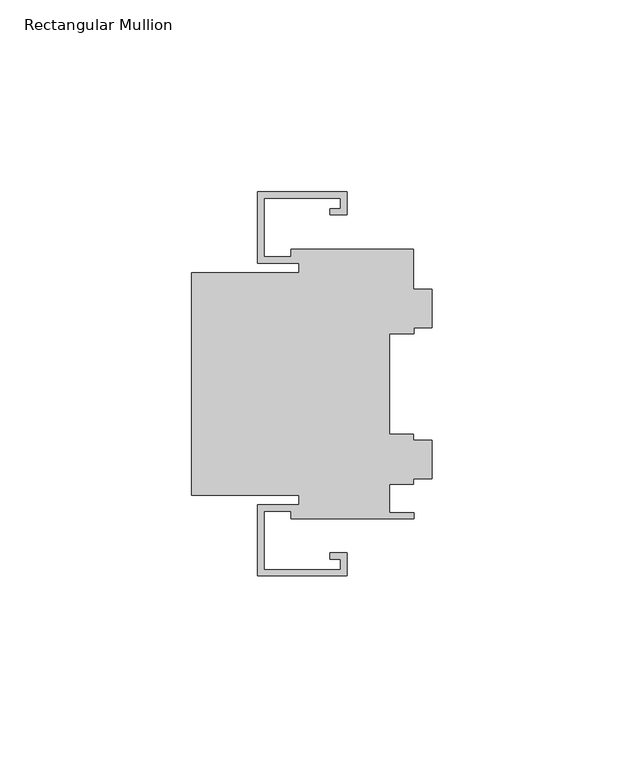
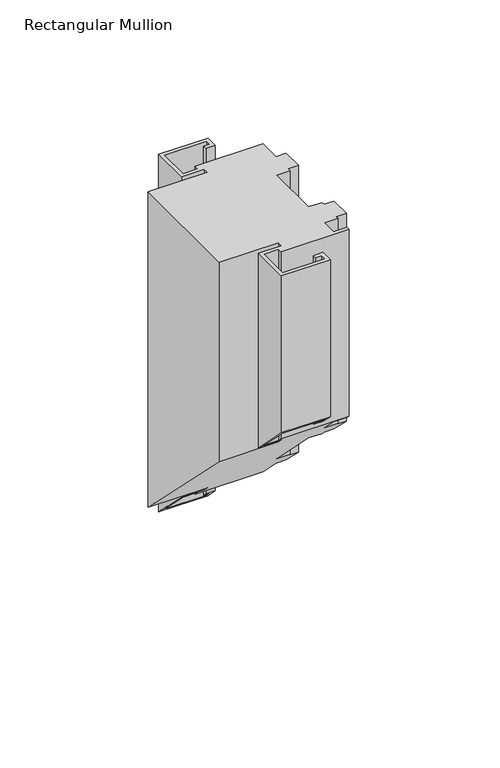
"""IFC4 building model written with IfcOpenShell, lengths in millimetres: member geometry, Rectangular Mullion : Frame-Teknion-OptosLP-Ceiling_Top_Spacer."""

from ifc_helpers import new_model, si_unit, origin, place, context, project, spatial, faceted_brep, source, transform, mapped, element, save


def rectangular_mullion_94d12410(model_context):
    return source(origin(), model_context, "Body", "Brep", [
        faceted_brep([(-22.1967604, 49.9999002, 0.0), (-45.4377611, 49.9999002, 0.0), (-45.4377611, 31.457901, 0.0), (-34.6173606, 31.457901, 0.0), (-34.6173606, 28.9941, 0.0), (-62.608161, 28.9941, 0.0), (-62.608161, -28.9941, 0.0), (-34.6173606, -28.9941, 0.0), (-34.6173606, -31.457901, 0.0), (-45.4377611, -31.457901, 0.0), (-45.4377611, -49.9999002, 0.0), (-22.1967604, -49.9999002, 0.0), (-22.1967604, -44.030901, 0.0), (-26.6417618, -44.030901, 0.0), (-26.6417618, -45.6819013, 0.0), (-23.8477606, -45.6819013, 0.0), (-23.8477606, -48.3488999, 0.0), (-43.7867608, -48.3488999, 0.0), (-43.7867608, -33.1089012, 0.0), (-36.801761, -33.1089012, 0.0), (-36.801761, -35.1409018, 0.0), (-4.7762384, -35.1409018, 0.0), (-4.7762384, -33.4899016, 0.0), (-11.1450644, -33.4899016, 0.0), (-11.1450644, -26.1620004, 0.0), (-4.7977622, -26.1620004, 0.0), (-4.7977622, -24.6323263, 0.0), (0.0, -24.6323263, 0.0), (0.0, -14.6111051, 0.0), (-4.7977622, -14.6111051, 0.0), (-4.7977622, -13.0810002, 0.0), (-11.1477617, -13.0810002, 0.0), (-11.1477617, 13.0810002, 0.0), (-4.7762384, 13.0810002, 0.0), (-4.7762384, 14.6103429, 0.0), (0.0, 14.6103429, 0.0), (0.0, 24.6315641, 0.0), (-4.7977622, 24.6315641, 0.0), (-4.7977622, 35.1409018, 0.0), (-36.801761, 35.1409018, 0.0), (-36.801761, 33.1089012, 0.0), (-43.7867608, 33.1089012, 0.0), (-43.7867608, 48.3488999, 0.0), (-23.8477606, 48.3488999, 0.0), (-23.8477606, 45.6819013, 0.0), (-26.6417618, 45.6819013, 0.0), (-26.6417618, 44.030901, 0.0), (-22.1967604, 44.030901, 0.0), (-22.1967604, 49.9999002, -178.2407062), (-45.4377611, 49.9999002, -178.2407062), (-45.4377611, 31.457901, -159.698707), (-34.6173606, 31.457901, -159.698707), (-34.6173606, 28.9941, -157.234906), (-62.608161, 28.9941, -157.234906), (-62.608161, -28.9941, -99.246706), (-34.6173606, -28.9941, -99.246706), (-34.6173606, -31.457901, -96.782905), (-45.4377611, -31.457901, -96.782905), (-45.4377611, -49.9999002, -78.2409059), (-22.1967604, -49.9999002, -78.2409059), (-22.1967604, -44.030901, -84.209905), (-26.6417618, -44.030901, -84.209905), (-26.6417618, -45.6819013, -82.5589048), (-23.8477606, -45.6819013, -82.5589048), (-23.8477606, -48.3488999, -79.8919061), (-43.7867608, -48.3488999, -79.8919061), (-43.7867608, -33.1089012, -95.1319048), (-36.801761, -33.1089012, -95.1319048), (-36.801761, -35.1409018, -93.0999042), (-4.7762384, -35.1409018, -93.0999042), (-4.7762384, -33.4899016, -94.7509045), (-11.1450644, -33.4899016, -94.7509045), (-11.1450644, -26.1620004, -102.0788057), (-4.7977622, -26.1620004, -102.0788057), (-4.7977622, -24.6323263, -103.6084798), (0.0, -24.6323263, -103.6084798), (0.0, -14.6111051, -113.6297009), (-4.7977622, -14.6111051, -113.6297009), (-4.7977622, -13.0810002, -115.1598059), (-11.1477617, -13.0810002, -115.1598059), (-11.1477617, 13.0810002, -141.3218062), (-4.7762384, 13.0810002, -141.3218062), (-4.7762384, 14.6103429, -142.851149), (0.0, 14.6103429, -142.851149), (0.0, 24.6315641, -152.8723701), (-4.7977622, 24.6315641, -152.8723701), (-4.7977622, 35.1409018, -163.3817078), (-36.801761, 35.1409018, -163.3817078), (-36.801761, 33.1089012, -161.3497073), (-43.7867608, 33.1089012, -161.3497073), (-43.7867608, 48.3488999, -176.589706), (-23.8477606, 48.3488999, -176.589706), (-23.8477606, 45.6819013, -173.9227073), (-26.6417618, 45.6819013, -173.9227073), (-26.6417618, 44.030901, -172.2717071), (-22.1967604, 44.030901, -172.2717071)], [[[0, 1, 2, 3, 4, 5, 6, 7, 8, 9, 10, 11, 12, 13, 14, 15, 16, 17, 18, 19, 20, 21, 22, 23, 24, 25, 26, 27, 28, 29, 30, 31, 32, 33, 34, 35, 36, 37, 38, 39, 40, 41, 42, 43, 44, 45, 46, 47]], [[1, 0, 48, 49]], [[2, 1, 49, 50]], [[3, 2, 50, 51]], [[4, 3, 51, 52]], [[5, 4, 52, 53]], [[6, 5, 53, 54]], [[7, 6, 54, 55]], [[8, 7, 55, 56]], [[9, 8, 56, 57]], [[10, 9, 57, 58]], [[11, 10, 58, 59]], [[12, 11, 59, 60]], [[13, 12, 60, 61]], [[14, 13, 61, 62]], [[15, 14, 62, 63]], [[16, 15, 63, 64]], [[17, 16, 64, 65]], [[18, 17, 65, 66]], [[19, 18, 66, 67]], [[20, 19, 67, 68]], [[21, 20, 68, 69]], [[22, 21, 69, 70]], [[23, 22, 70, 71]], [[24, 23, 71, 72]], [[25, 24, 72, 73]], [[26, 25, 73, 74]], [[27, 26, 74, 75]], [[28, 27, 75, 76]], [[29, 28, 76, 77]], [[30, 29, 77, 78]], [[31, 30, 78, 79]], [[32, 31, 79, 80]], [[33, 32, 80, 81]], [[34, 33, 81, 82]], [[35, 34, 82, 83]], [[36, 35, 83, 84]], [[37, 36, 84, 85]], [[38, 37, 85, 86]], [[39, 38, 86, 87]], [[40, 39, 87, 88]], [[41, 40, 88, 89]], [[42, 41, 89, 90]], [[43, 42, 90, 91]], [[44, 43, 91, 92]], [[45, 44, 92, 93]], [[46, 45, 93, 94]], [[47, 46, 94, 95]], [[0, 47, 95, 48]], [[48, 95, 94, 93, 92, 91, 90, 89, 88, 87, 86, 85, 84, 83, 82, 81, 80, 79, 78, 77, 76, 75, 74, 73, 72, 71, 70, 69, 68, 67, 66, 65, 64, 63, 62, 61, 60, 59, 58, 57, 56, 55, 54, 53, 52, 51, 50, 49]]]),
    ])


if __name__ == "__main__":
    model = new_model("IFC4")
    model_context = context("Model", 3, world=origin())
    ifc_project = project(units=[si_unit("LENGTHUNIT", "METRE", prefix="MILLI")], contexts=[model_context])
    site = spatial("IfcSite", under=ifc_project)
    building = spatial("IfcBuilding", under=site)
    placement = place(None, origin())
    rectangular_mullion_shape = rectangular_mullion_94d12410(model_context)
    element("IfcMember", 1, ObjectType="Rectangular Mullion : Frame-Teknion-OptosLP-Ceiling_Top_Spacer", at=placement, inside=building, context=model_context, shape_type="MappedRepresentation", body=[
        mapped(rectangular_mullion_shape, transform((0.0, 0.0, 0.0), x_axis=(1.0, 0.0, 0.0), y_axis=(0.0, 1.0, 0.0), z_axis=(0.0, 0.0, 1.0))),
    ])
    save(model, "model.ifc")
